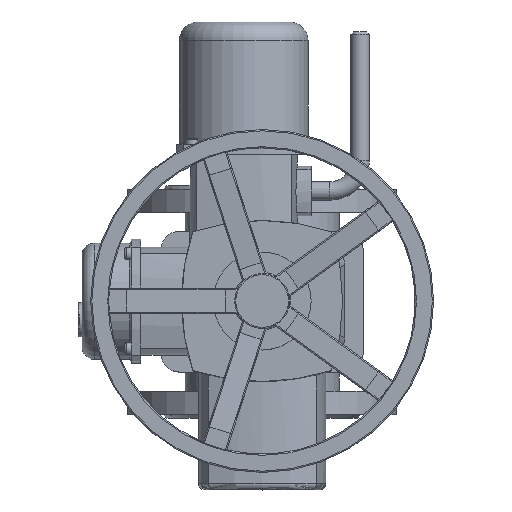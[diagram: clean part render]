
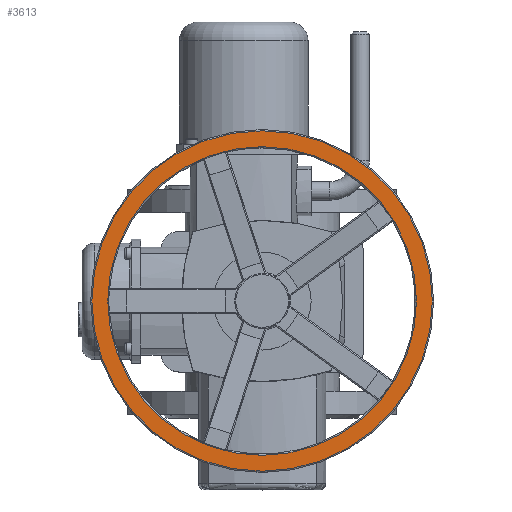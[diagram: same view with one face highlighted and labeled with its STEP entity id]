
A CAD part, top view. The second image highlights one B-rep face of the part: STEP entity #3613.
In plain terms, the highlighted planar face has unit normal (0, 0, 1).
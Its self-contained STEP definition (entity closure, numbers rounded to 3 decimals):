
#3613=ADVANCED_FACE('',(#7894,#7896),#7898,.F.);
#7894=FACE_BOUND('',#7895,.T.);
#7895=EDGE_LOOP('',(#9776));
#7896=FACE_BOUND('',#7897,.T.);
#7897=EDGE_LOOP('',(#9777));
#7898=PLANE('',#7899);
#7899=AXIS2_PLACEMENT_3D('',#7900,#7901,#7902);
#7900=CARTESIAN_POINT('',(0.,0.,435.));
#7901=DIRECTION('',(0.,0.,-1.));
#7902=DIRECTION('',(0.,1.,0.));
#9776=ORIENTED_EDGE('',*,*,#10704,.F.);
#9777=ORIENTED_EDGE('',*,*,#10679,.T.);
#10679=EDGE_CURVE('',#12198,#12198,#12199,.T.);
#10704=EDGE_CURVE('',#12226,#12226,#12227,.T.);
#12198=VERTEX_POINT('',#19862);
#12199=CIRCLE('',#19863,126.);
#12226=VERTEX_POINT('',#20273);
#12227=CIRCLE('',#20274,139.);
#19862=CARTESIAN_POINT('',(0.,126.,435.));
#19863=AXIS2_PLACEMENT_3D('',#19864,#19865,#19866);
#19864=CARTESIAN_POINT('',(0.,0.,435.));
#19865=DIRECTION('',(0.,0.,-1.));
#19866=DIRECTION('',(0.,1.,0.));
#20273=CARTESIAN_POINT('',(0.,139.,435.));
#20274=AXIS2_PLACEMENT_3D('',#20275,#20276,#20277);
#20275=CARTESIAN_POINT('',(0.,0.,435.));
#20276=DIRECTION('',(0.,0.,-1.));
#20277=DIRECTION('',(0.,1.,0.));
